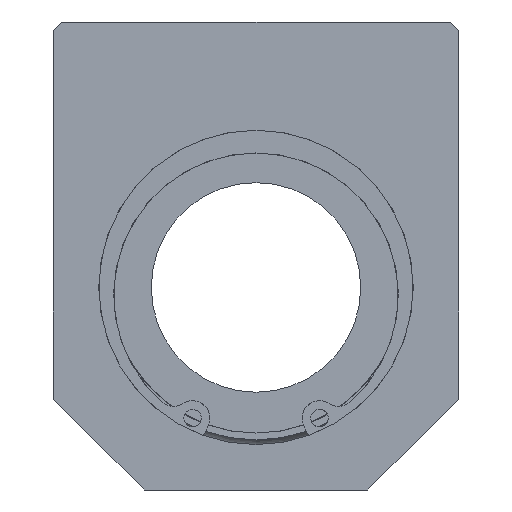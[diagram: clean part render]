
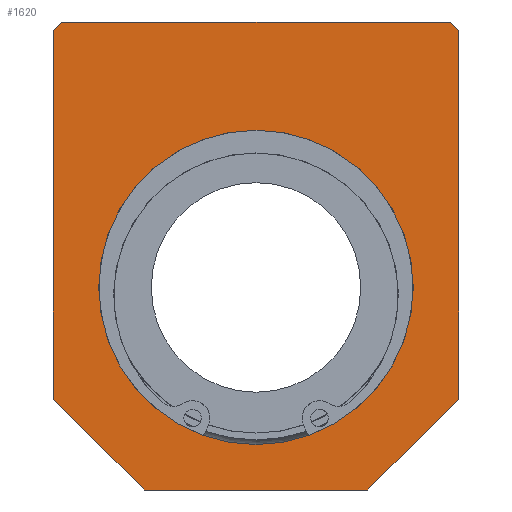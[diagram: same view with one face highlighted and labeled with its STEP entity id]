
A CAD part, left-side view. The second image highlights one B-rep face of the part: STEP entity #1620.
In plain terms, the highlighted planar face has unit normal (-1, 0, 0).
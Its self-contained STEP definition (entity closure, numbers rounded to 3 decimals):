
#1522=CARTESIAN_POINT('',(0.0,-27.8,38.));
#1523=VERTEX_POINT('',#1522);
#1530=CARTESIAN_POINT('',(0.0,-29.,36.8));
#1531=VERTEX_POINT('',#1530);
#1532=CARTESIAN_POINT('',(0.0,-27.8,38.));
#1533=DIRECTION('',(0.0,-0.707,-0.707));
#1534=VECTOR('',#1533,1.697);
#1535=LINE('',#1532,#1534);
#1536=EDGE_CURVE('',#1523,#1531,#1535,.T.);
#1547=CARTESIAN_POINT('',(0.0,0.,4.5));
#1548=DIRECTION('',(1.0,0.0,0.0));
#1549=DIRECTION('',(0.0,0.0,-1.0));
#1550=AXIS2_PLACEMENT_3D('',#1547,#1548,#1549);
#1551=PLANE('',#1550);
#1552=ORIENTED_EDGE('',*,*,#1536,.F.);
#1553=CARTESIAN_POINT('',(0.0,27.8,38.));
#1554=VERTEX_POINT('',#1553);
#1555=CARTESIAN_POINT('',(0.0,-27.8,38.));
#1556=DIRECTION('',(0.0,1.0,0.0));
#1557=VECTOR('',#1556,55.6);
#1558=LINE('',#1555,#1557);
#1559=EDGE_CURVE('',#1523,#1554,#1558,.T.);
#1560=ORIENTED_EDGE('',*,*,#1559,.T.);
#1561=CARTESIAN_POINT('',(0.0,29.,36.8));
#1562=VERTEX_POINT('',#1561);
#1563=CARTESIAN_POINT('',(0.0,29.,36.8));
#1564=DIRECTION('',(0.0,-0.707,0.707));
#1565=VECTOR('',#1564,1.697);
#1566=LINE('',#1563,#1565);
#1567=EDGE_CURVE('',#1562,#1554,#1566,.T.);
#1568=ORIENTED_EDGE('',*,*,#1567,.F.);
#1569=CARTESIAN_POINT('',(0.0,29.,-16.));
#1570=VERTEX_POINT('',#1569);
#1571=CARTESIAN_POINT('',(0.0,29.,36.8));
#1572=DIRECTION('',(0.0,0.0,-1.0));
#1573=VECTOR('',#1572,52.8);
#1574=LINE('',#1571,#1573);
#1575=EDGE_CURVE('',#1562,#1570,#1574,.T.);
#1576=ORIENTED_EDGE('',*,*,#1575,.T.);
#1577=CARTESIAN_POINT('',(0.0,16.,-29.));
#1578=VERTEX_POINT('',#1577);
#1579=CARTESIAN_POINT('',(0.0,16.,-29.));
#1580=DIRECTION('',(0.0,0.707,0.707));
#1581=VECTOR('',#1580,18.385);
#1582=LINE('',#1579,#1581);
#1583=EDGE_CURVE('',#1578,#1570,#1582,.T.);
#1584=ORIENTED_EDGE('',*,*,#1583,.F.);
#1585=CARTESIAN_POINT('',(0.0,-16.,-29.));
#1586=VERTEX_POINT('',#1585);
#1587=CARTESIAN_POINT('',(0.0,16.,-29.));
#1588=DIRECTION('',(0.0,-1.0,0.0));
#1589=VECTOR('',#1588,32.);
#1590=LINE('',#1587,#1589);
#1591=EDGE_CURVE('',#1578,#1586,#1590,.T.);
#1592=ORIENTED_EDGE('',*,*,#1591,.T.);
#1593=CARTESIAN_POINT('',(0.0,-29.,-16.));
#1594=VERTEX_POINT('',#1593);
#1595=CARTESIAN_POINT('',(0.0,-29.,-16.));
#1596=DIRECTION('',(0.0,0.707,-0.707));
#1597=VECTOR('',#1596,18.385);
#1598=LINE('',#1595,#1597);
#1599=EDGE_CURVE('',#1594,#1586,#1598,.T.);
#1600=ORIENTED_EDGE('',*,*,#1599,.F.);
#1601=CARTESIAN_POINT('',(0.0,-29.,-16.));
#1602=DIRECTION('',(0.0,0.0,1.0));
#1603=VECTOR('',#1602,52.8);
#1604=LINE('',#1601,#1603);
#1605=EDGE_CURVE('',#1594,#1531,#1604,.T.);
#1606=ORIENTED_EDGE('',*,*,#1605,.T.);
#1607=EDGE_LOOP('',(#1552,#1560,#1568,#1576,#1584,#1592,#1600,#1606));
#1608=FACE_OUTER_BOUND('',#1607,.T.);
#1609=CARTESIAN_POINT('',(0.0,22.5,0.));
#1610=VERTEX_POINT('',#1609);
#1611=CARTESIAN_POINT('',(0.0,0.0,0.0));
#1612=DIRECTION('',(1.0,0.0,0.0));
#1613=DIRECTION('',(0.0,-1.0,0.0));
#1614=AXIS2_PLACEMENT_3D('',#1611,#1612,#1613);
#1615=CIRCLE('',#1614,22.5);
#1616=EDGE_CURVE('',#1610,#1610,#1615,.T.);
#1617=ORIENTED_EDGE('',*,*,#1616,.T.);
#1618=EDGE_LOOP('',(#1617));
#1619=FACE_BOUND('',#1618,.T.);
#1620=ADVANCED_FACE('',(#1608,#1619),#1551,.F.);
